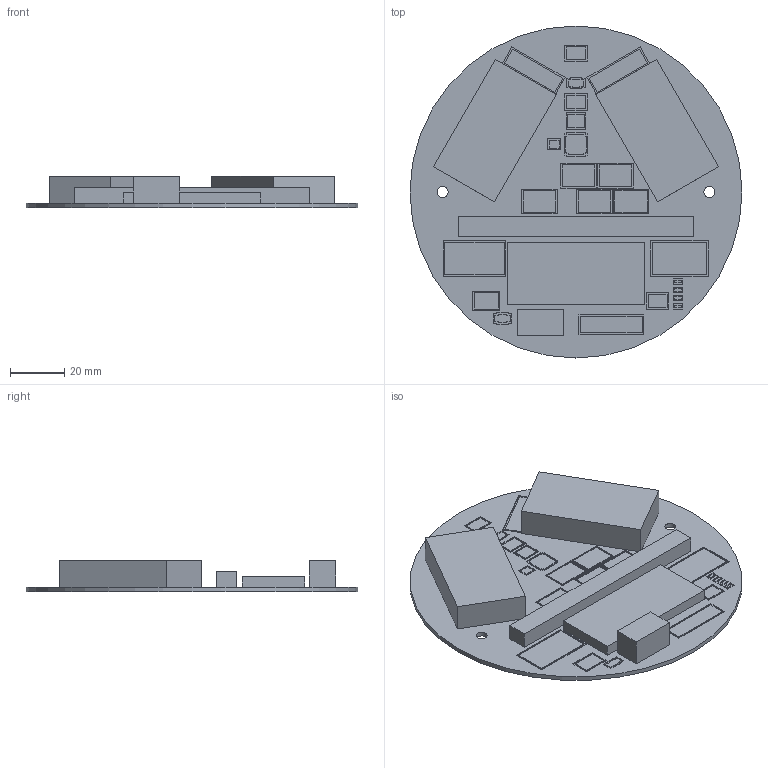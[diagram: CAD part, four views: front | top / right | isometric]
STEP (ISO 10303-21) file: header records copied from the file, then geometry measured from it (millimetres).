
FILE_DESCRIPTION(('Open CASCADE Model'),'2;1');
FILE_NAME('Open CASCADE Shape Model','2026-10-01T15:23:50',('Author'),( 'Open CASCADE'),'Open CASCADE STEP processor 7.9','Open CASCADE 7.9' ,'Unknown');
FILE_SCHEMA(('AUTOMOTIVE_DESIGN { 1 0 10303 214 1 1 1 1 }'));
Length unit declared in the file: millimetre
Products named in the file (1): Open CASCADE STEP translator 7.9 2
Bounding box: 122 x 122 x 11.6 mm (x, y, z)
Volume: 52241.4 mm3; surface area: 29720.6 mm2
Topology: 1 solids, 1 shells, 342 faces, 869 edges, 578 vertices
Faces by surface type: plane 339, cylinder 3
Full cylindrical faces by diameter (mm): 4 x2, 122 x1
Entity records: 20638 total; most frequent: CARTESIAN_POINT 4328, DIRECTION 2519, LINE 1819, VECTOR 1819, ORIENTED_EDGE 1738, PCURVE 1738, DEFINITIONAL_REPRESENTATION 1738, EDGE_CURVE 869
